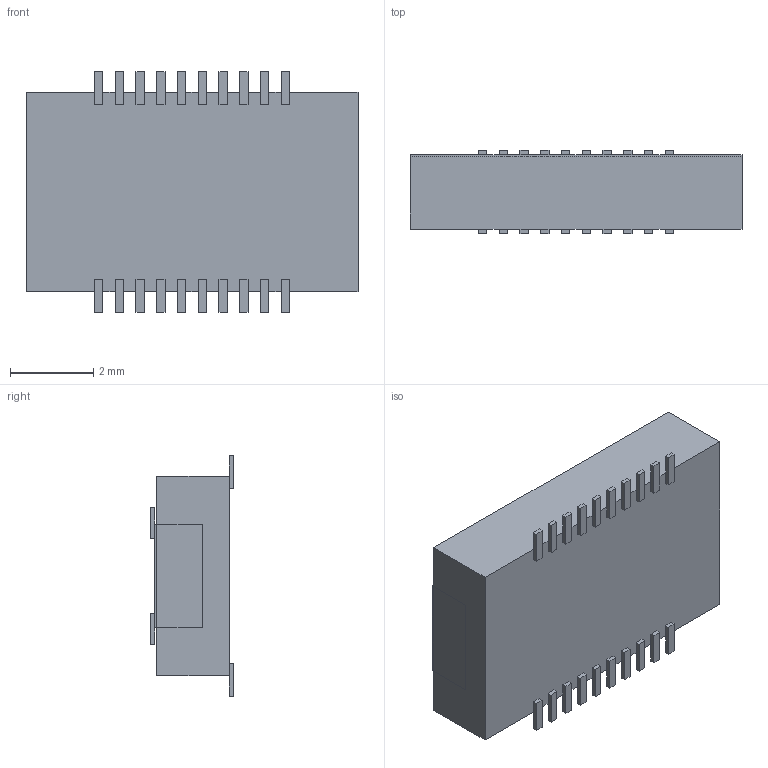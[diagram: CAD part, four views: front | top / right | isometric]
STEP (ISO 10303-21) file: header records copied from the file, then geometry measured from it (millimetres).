
FILE_DESCRIPTION((''),'2;1');
FILE_NAME('BTB-18PIN-2H-05P_ASM','2008-06-30T',('GRA'),(''),'PRO/ENGINEER BY PARAMETRIC TECHNOLOGY CORPORATION, 2006170','PRO/ENGINEER BY PARAMETRIC TECHNOLOGY CORPORATION, 2006170','');
FILE_SCHEMA(('CONFIG_CONTROL_DESIGN'));
Length unit declared in the file: millimetre
Products named in the file (3): BTB-18PIN-2H-05P-FEMALE_PRT; BTB-18PIN-2H-05P-MALE_PRT; BTB-18PIN-2H-05P_ASM
Assembly tree (2 placements, depth 2):
  BTB-18PIN-2H-05P_ASM
    BTB-18PIN-2H-05P-FEMALE_PRT
    BTB-18PIN-2H-05P-MALE_PRT
Bounding box: 8 x 2 x 5.8 mm (x, y, z)
Volume: 90.8 mm3; surface area: 200.7 mm2
Topology: 2 solids, 2 shells, 252 faces, 664 edges, 416 vertices
Faces by surface type: plane 252
Entity records: 7596 total; most frequent: CARTESIAN_POINT 1337, ORIENTED_EDGE 1328, DIRECTION 1178, VECTOR 664, LINE 664, EDGE_CURVE 664, VERTEX_POINT 416, AXIS2_PLACEMENT_3D 257
